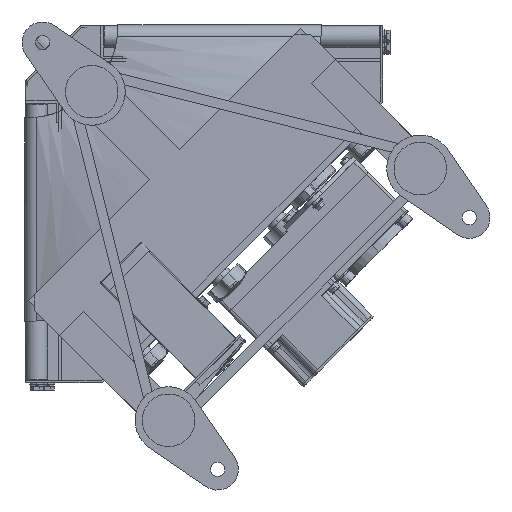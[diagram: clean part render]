
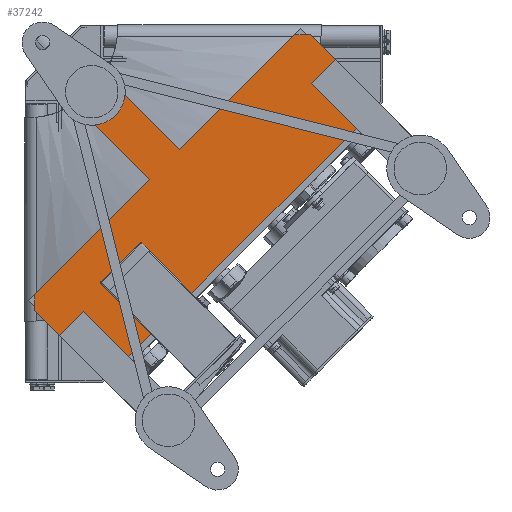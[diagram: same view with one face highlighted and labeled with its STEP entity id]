
A CAD part, front view. The second image highlights one B-rep face of the part: STEP entity #37242.
In plain terms, the highlighted planar face has unit normal (0, -1, 0).
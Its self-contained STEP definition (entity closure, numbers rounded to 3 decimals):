
#1076 = VERTEX_POINT ( 'NONE', #34026 ) ;
#1376 = ORIENTED_EDGE ( 'NONE', *, *, #2227, .F. ) ;
#1542 = VERTEX_POINT ( 'NONE', #30195 ) ;
#1999 = CARTESIAN_POINT ( 'NONE',  ( 113.137, -167.5, -140.007 ) ) ;
#2153 = CARTESIAN_POINT ( 'NONE',  ( 39.598, -167.5, -12.728 ) ) ;
#2227 = EDGE_CURVE ( 'NONE', #39169, #4168, #9835, .T. ) ;
#2342 = LINE ( 'NONE', #35662, #13307 ) ;
#2950 = LINE ( 'NONE', #49189, #43868 ) ;
#3229 = VECTOR ( 'NONE', #31616, 1000. ) ;
#3268 = LINE ( 'NONE', #19829, #41149 ) ;
#3271 = EDGE_CURVE ( 'NONE', #41866, #1542, #5500, .T. ) ;
#3708 = CARTESIAN_POINT ( 'NONE',  ( 71.771, -167.5, -322.794 ) ) ;
#3858 = LINE ( 'NONE', #2153, #29519 ) ;
#3875 = DIRECTION ( 'NONE',  ( 0.707, 0., 0.707 ) ) ;
#3889 = DIRECTION ( 'NONE',  ( 0., -1., 0. ) ) ;
#4168 = VERTEX_POINT ( 'NONE', #40558 ) ;
#4857 = LINE ( 'NONE', #3708, #32394 ) ;
#5500 = LINE ( 'NONE', #36755, #45807 ) ;
#5977 = DIRECTION ( 'NONE',  ( -0.707, 0., 0.707 ) ) ;
#7972 = CARTESIAN_POINT ( 'NONE',  ( 0., -167.5, 0. ) ) ;
#9591 = DIRECTION ( 'NONE',  ( -1., 0., 0. ) ) ;
#9758 = CARTESIAN_POINT ( 'NONE',  ( 12.728, -167.5, -39.598 ) ) ;
#9835 = LINE ( 'NONE', #9758, #12266 ) ;
#10630 = DIRECTION ( 'NONE',  ( 0.707, 0., -0.707 ) ) ;
#10734 = EDGE_CURVE ( 'NONE', #32420, #46592, #2950, .T. ) ;
#10911 = ORIENTED_EDGE ( 'NONE', *, *, #3271, .T. ) ;
#11565 = PLANE ( 'NONE',  #23794 ) ;
#12266 = VECTOR ( 'NONE', #5977, 1000. ) ;
#12580 = DIRECTION ( 'NONE',  ( 0., 0., -1. ) ) ;
#12874 = ORIENTED_EDGE ( 'NONE', *, *, #10734, .T. ) ;
#13069 = CARTESIAN_POINT ( 'NONE',  ( 259.155, -167.5, -8.132 ) ) ;
#13288 = EDGE_CURVE ( 'NONE', #34537, #41866, #13604, .T. ) ;
#13307 = VECTOR ( 'NONE', #12580, 1000. ) ;
#13604 = LINE ( 'NONE', #36029, #3229 ) ;
#13609 = CARTESIAN_POINT ( 'NONE',  ( 71.771, -167.5, -322.794 ) ) ;
#14397 = VERTEX_POINT ( 'NONE', #30475 ) ;
#14415 = CARTESIAN_POINT ( 'NONE',  ( 8.132, -167.5, -259.155 ) ) ;
#17113 = CARTESIAN_POINT ( 'NONE',  ( 39.598, -167.5, -12.728 ) ) ;
#17139 = ORIENTED_EDGE ( 'NONE', *, *, #48395, .T. ) ;
#17671 = DIRECTION ( 'NONE',  ( 0.707, 0., 0.707 ) ) ;
#18458 = ORIENTED_EDGE ( 'NONE', *, *, #13288, .T. ) ;
#19119 = EDGE_CURVE ( 'NONE', #14397, #32420, #2342, .T. ) ;
#19829 = CARTESIAN_POINT ( 'NONE',  ( 8.132, -167.5, -245.012 ) ) ;
#23794 = AXIS2_PLACEMENT_3D ( 'NONE', #7972, #3889, #31569 ) ;
#24260 = CARTESIAN_POINT ( 'NONE',  ( 8.132, -167.5, -245.012 ) ) ;
#24997 = EDGE_CURVE ( 'NONE', #46592, #34537, #4857, .T. ) ;
#25338 = VECTOR ( 'NONE', #32467, 1000. ) ;
#25462 = ORIENTED_EDGE ( 'NONE', *, *, #29720, .T. ) ;
#26569 = VERTEX_POINT ( 'NONE', #17113 ) ;
#27800 = EDGE_LOOP ( 'NONE', ( #1376, #25462, #28163, #12874, #49307, #18458, #10911, #17139, #35783, #31779 ) ) ;
#27883 = DIRECTION ( 'NONE',  ( -0.707, 0., -0.707 ) ) ;
#28163 = ORIENTED_EDGE ( 'NONE', *, *, #19119, .T. ) ;
#28357 = LINE ( 'NONE', #24260, #25338 ) ;
#29162 = DIRECTION ( 'NONE',  ( 0.707, 0., -0.707 ) ) ;
#29519 = VECTOR ( 'NONE', #29162, 1000. ) ;
#29720 = EDGE_CURVE ( 'NONE', #39169, #14397, #28357, .T. ) ;
#30195 = CARTESIAN_POINT ( 'NONE',  ( 245.012, -167.5, -8.132 ) ) ;
#30475 = CARTESIAN_POINT ( 'NONE',  ( 8.132, -167.5, -245.012 ) ) ;
#31569 = DIRECTION ( 'NONE',  ( 0., 0., -1. ) ) ;
#31616 = DIRECTION ( 'NONE',  ( -0.707, 0., 0.707 ) ) ;
#31779 = ORIENTED_EDGE ( 'NONE', *, *, #39037, .F. ) ;
#32394 = VECTOR ( 'NONE', #3875, 1000. ) ;
#32420 = VERTEX_POINT ( 'NONE', #14415 ) ;
#32467 = DIRECTION ( 'NONE',  ( -0.707, 0., -0.707 ) ) ;
#33098 = CARTESIAN_POINT ( 'NONE',  ( 12.728, -167.5, -39.598 ) ) ;
#34026 = CARTESIAN_POINT ( 'NONE',  ( 140.007, -167.5, -113.137 ) ) ;
#34537 = VERTEX_POINT ( 'NONE', #40589 ) ;
#35059 = FACE_OUTER_BOUND ( 'NONE', #27800, .T. ) ;
#35662 = CARTESIAN_POINT ( 'NONE',  ( 8.132, -167.5, -259.155 ) ) ;
#35783 = ORIENTED_EDGE ( 'NONE', *, *, #47639, .F. ) ;
#36029 = CARTESIAN_POINT ( 'NONE',  ( 259.155, -167.5, -8.132 ) ) ;
#36755 = CARTESIAN_POINT ( 'NONE',  ( 245.012, -167.5, -8.132 ) ) ;
#37242 = ADVANCED_FACE ( 'NONE', ( #35059 ), #11565, .T. ) ;
#38012 = VECTOR ( 'NONE', #17671, 1000. ) ;
#39037 = EDGE_CURVE ( 'NONE', #4168, #26569, #48329, .T. ) ;
#39169 = VERTEX_POINT ( 'NONE', #1999 ) ;
#40558 = CARTESIAN_POINT ( 'NONE',  ( 12.728, -167.5, -39.598 ) ) ;
#40589 = CARTESIAN_POINT ( 'NONE',  ( 322.794, -167.5, -71.771 ) ) ;
#41149 = VECTOR ( 'NONE', #27883, 1000. ) ;
#41866 = VERTEX_POINT ( 'NONE', #13069 ) ;
#43868 = VECTOR ( 'NONE', #10630, 1000. ) ;
#45807 = VECTOR ( 'NONE', #9591, 1000. ) ;
#46592 = VERTEX_POINT ( 'NONE', #13609 ) ;
#47639 = EDGE_CURVE ( 'NONE', #26569, #1076, #3858, .T. ) ;
#48329 = LINE ( 'NONE', #33098, #38012 ) ;
#48395 = EDGE_CURVE ( 'NONE', #1542, #1076, #3268, .T. ) ;
#49189 = CARTESIAN_POINT ( 'NONE',  ( 8.132, -167.5, -259.155 ) ) ;
#49307 = ORIENTED_EDGE ( 'NONE', *, *, #24997, .T. ) ;
